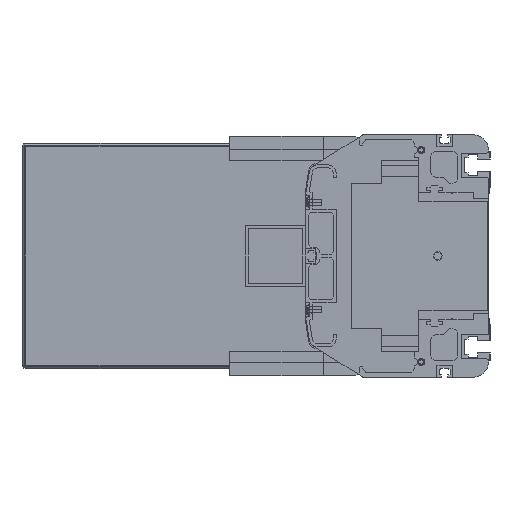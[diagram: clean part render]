
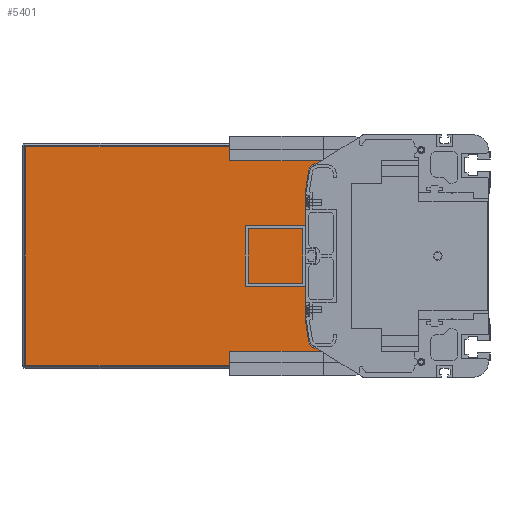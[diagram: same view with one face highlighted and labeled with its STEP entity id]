
A CAD part, left-side view. The second image highlights one B-rep face of the part: STEP entity #5401.
In plain terms, the highlighted planar face has unit normal (-1, 0, 0).
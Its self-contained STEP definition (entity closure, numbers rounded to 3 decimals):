
#527=DIRECTION('',(0.,0.,-1.));
#528=VECTOR('',#527,11.);
#529=CARTESIAN_POINT('',(4686.5,86.,72.));
#530=LINE('',#529,#528);
#551=DIRECTION('',(0.,0.,-1.));
#552=VECTOR('',#551,11.);
#553=CARTESIAN_POINT('',(4686.5,86.,-61.));
#554=LINE('',#553,#552);
#559=DIRECTION('',(0.,-1.,0.));
#560=VECTOR('',#559,28.728);
#561=CARTESIAN_POINT('',(4686.5,114.728,61.));
#562=LINE('',#561,#560);
#575=DIRECTION('',(0.,0.,1.));
#576=VECTOR('',#575,84.);
#577=CARTESIAN_POINT('',(4686.5,122.,-42.));
#578=LINE('',#577,#576);
#587=CARTESIAN_POINT('',(4686.5,114.728,56.));
#588=DIRECTION('',(-1.,0.,0.));
#589=DIRECTION('',(0.,0.,1.));
#590=AXIS2_PLACEMENT_3D('',#587,#588,#589);
#592=DIRECTION('',(0.,0.156,-0.988));
#593=VECTOR('',#592,14.963);
#594=CARTESIAN_POINT('',(4686.5,119.666,56.78));
#595=LINE('',#594,#593);
#596=DIRECTION('',(0.,-0.156,-0.988));
#597=VECTOR('',#596,14.963);
#598=CARTESIAN_POINT('',(4686.5,122.,-42.));
#599=LINE('',#598,#597);
#600=CARTESIAN_POINT('',(4686.5,114.728,-56.));
#601=DIRECTION('',(-1.,0.,0.));
#602=DIRECTION('',(0.,0.988,-0.156));
#603=AXIS2_PLACEMENT_3D('',#600,#601,#602);
#609=DIRECTION('',(0.,-1.,0.));
#610=VECTOR('',#609,220.5);
#611=CARTESIAN_POINT('',(4686.5,306.5,-72.));
#612=LINE('',#611,#610);
#1828=DIRECTION('',(0.,1.,0.));
#1829=VECTOR('',#1828,220.5);
#1830=CARTESIAN_POINT('',(4686.5,86.,72.));
#1831=LINE('',#1830,#1829);
#1855=DIRECTION('',(0.,0.,-1.));
#1856=VECTOR('',#1855,144.);
#1857=CARTESIAN_POINT('',(4686.5,306.5,72.));
#1858=LINE('',#1857,#1856);
#3549=DIRECTION('',(0.,1.,0.));
#3550=VECTOR('',#3549,28.728);
#3551=CARTESIAN_POINT('',(4686.5,86.,-61.));
#3552=LINE('',#3551,#3550);
#3891=CARTESIAN_POINT('',(4686.5,306.5,-72.));
#3892=CARTESIAN_POINT('',(4686.5,86.,-72.));
#3893=VERTEX_POINT('',#3891);
#3894=VERTEX_POINT('',#3892);
#3895=CARTESIAN_POINT('',(4686.5,86.,-61.));
#3896=VERTEX_POINT('',#3895);
#3897=CARTESIAN_POINT('',(4686.5,114.728,-61.));
#3898=VERTEX_POINT('',#3897);
#3899=CARTESIAN_POINT('',(4686.5,119.666,-56.78));
#3900=VERTEX_POINT('',#3899);
#3901=CARTESIAN_POINT('',(4686.5,122.,-42.));
#3902=VERTEX_POINT('',#3901);
#3903=CARTESIAN_POINT('',(4686.5,122.,42.));
#3904=VERTEX_POINT('',#3903);
#3905=CARTESIAN_POINT('',(4686.5,119.666,56.78));
#3906=VERTEX_POINT('',#3905);
#3907=CARTESIAN_POINT('',(4686.5,114.728,61.));
#3908=VERTEX_POINT('',#3907);
#3909=CARTESIAN_POINT('',(4686.5,86.,61.));
#3910=VERTEX_POINT('',#3909);
#3911=CARTESIAN_POINT('',(4686.5,86.,72.));
#3912=VERTEX_POINT('',#3911);
#3913=CARTESIAN_POINT('',(4686.5,306.5,72.));
#3914=VERTEX_POINT('',#3913);
#5376=CARTESIAN_POINT('',(4686.5,196.25,0.));
#5377=DIRECTION('',(1.,0.,0.));
#5378=DIRECTION('',(0.,0.,-1.));
#5379=AXIS2_PLACEMENT_3D('',#5376,#5377,#5378);
#5380=PLANE('',#5379);
#5382=ORIENTED_EDGE('',*,*,#5381,.F.);
#5384=ORIENTED_EDGE('',*,*,#5383,.F.);
#5386=ORIENTED_EDGE('',*,*,#5385,.F.);
#5387=ORIENTED_EDGE('',*,*,#5279,.T.);
#5388=ORIENTED_EDGE('',*,*,#5328,.F.);
#5389=ORIENTED_EDGE('',*,*,#5341,.T.);
#5390=ORIENTED_EDGE('',*,*,#5357,.T.);
#5391=ORIENTED_EDGE('',*,*,#5367,.F.);
#5393=ORIENTED_EDGE('',*,*,#5392,.T.);
#5395=ORIENTED_EDGE('',*,*,#5394,.T.);
#5397=ORIENTED_EDGE('',*,*,#5396,.F.);
#5398=ORIENTED_EDGE('',*,*,#5312,.T.);
#5399=EDGE_LOOP('',(#5382,#5384,#5386,#5387,#5388,#5389,#5390,#5391,#5393,#5395,
#5397,#5398));
#5400=FACE_OUTER_BOUND('',#5399,.F.);
#5401=ADVANCED_FACE('',(#5400),#5380,.F.);
#591=CIRCLE('',#590,5.);
#604=CIRCLE('',#603,5.);
#5279=EDGE_CURVE('',#3912,#3910,#530,.T.);
#5312=EDGE_CURVE('',#3896,#3894,#554,.T.);
#5328=EDGE_CURVE('',#3908,#3910,#562,.T.);
#5341=EDGE_CURVE('',#3908,#3906,#591,.T.);
#5357=EDGE_CURVE('',#3906,#3904,#595,.T.);
#5367=EDGE_CURVE('',#3902,#3904,#578,.T.);
#5381=EDGE_CURVE('',#3893,#3894,#612,.T.);
#5383=EDGE_CURVE('',#3914,#3893,#1858,.T.);
#5385=EDGE_CURVE('',#3912,#3914,#1831,.T.);
#5392=EDGE_CURVE('',#3902,#3900,#599,.T.);
#5394=EDGE_CURVE('',#3900,#3898,#604,.T.);
#5396=EDGE_CURVE('',#3896,#3898,#3552,.T.);
